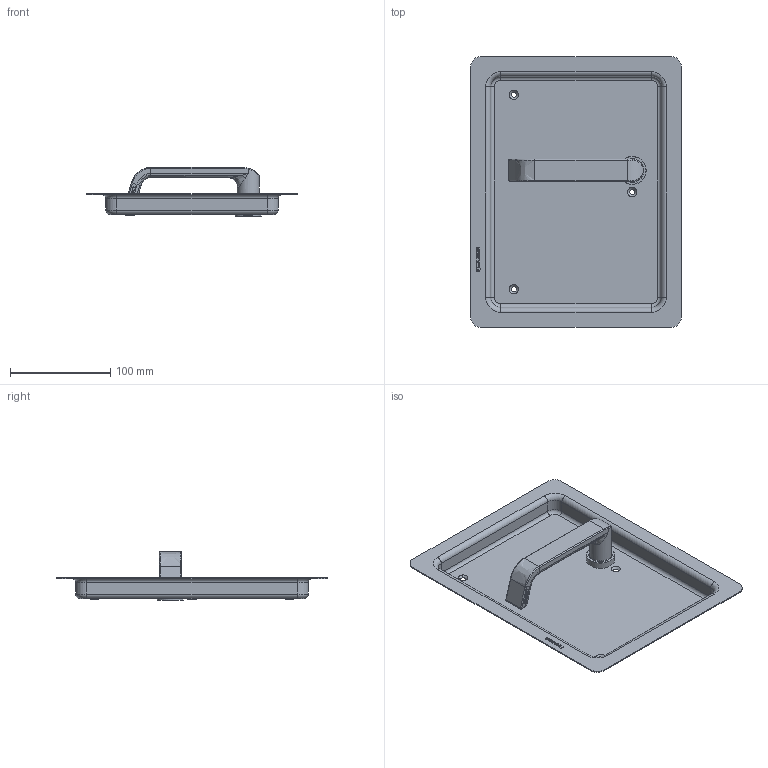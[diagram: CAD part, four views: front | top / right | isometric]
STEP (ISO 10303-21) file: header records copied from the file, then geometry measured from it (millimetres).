
FILE_DESCRIPTION(/* description */ (''),/* implementation_level */ '2;1');
FILE_NAME(/* name */ 'C:\ADSK_DMS_WS\Designs\Vorschläge\Loc Schalen\Muschel Serie 6\S6.20.D2Links\Heusser-Muschel S6.20.D2.0L.stp',/* time_stamp */ '2020-10-14T16:53:24+02:00',/* author */ ('gm'),/* organization */ (''),/* preprocessor_version */ 'ST-DEVELOPER v16.5',/* originating_system */ 'Autodesk Inventor 2017',/* authorisation */ '');
FILE_SCHEMA (('AUTOMOTIVE_DESIGN { 1 0 10303 214 3 1 1 }'));
Length unit declared in the file: millimetre
Products named in the file (1): S6.20.D1.0L
Bounding box: 210 x 270 x 49 mm (x, y, z)
Volume: 113265.8 mm3; surface area: 154244.9 mm2
Topology: 1 solids, 2 shells, 607 faces, 1594 edges, 1032 vertices
Faces by surface type: plane 294, bspline 208, cylinder 68, torus 21, cone 16
Full cylindrical faces by diameter (mm): 1.7 x2, 6 x1, 14.2 x1, 16 x3, 18 x1, 19 x1, 19.1 x1, 22 x1, 23 x1, 23.2 x1, 24 x1, 25 x1, 26 x1, 28 x1
Entity records: 20767 total; most frequent: CARTESIAN_POINT 6353, ORIENTED_EDGE 3098, DIRECTION 2309, EDGE_CURVE 1549, VERTEX_POINT 1024, LINE 953, VECTOR 953, EDGE_LOOP 703
